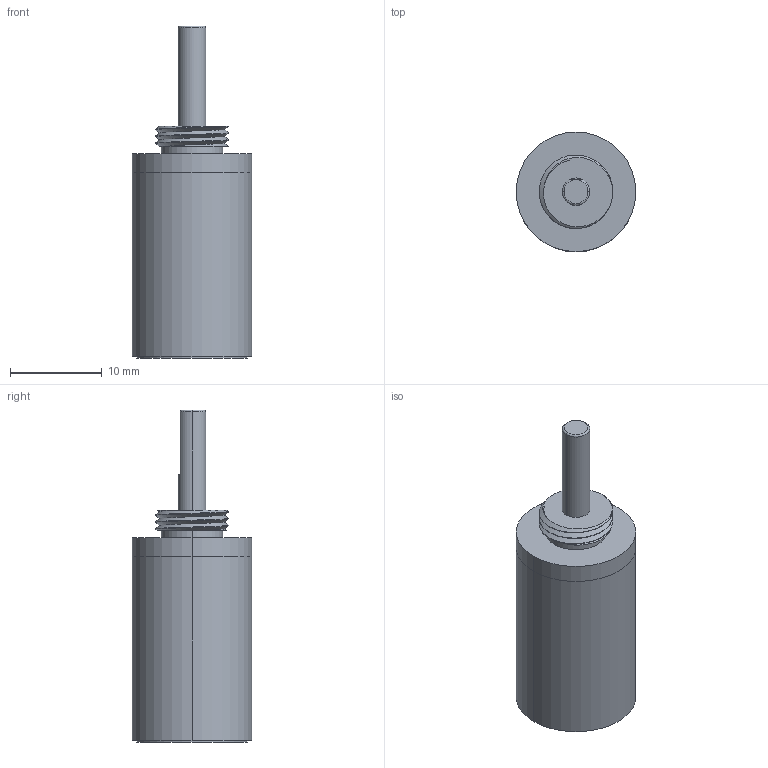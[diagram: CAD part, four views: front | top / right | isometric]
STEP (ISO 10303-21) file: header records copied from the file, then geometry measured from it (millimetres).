
FILE_DESCRIPTION (( 'STEP AP203' ), '1' );
FILE_NAME ('IG-13(II)-4stage.STEP', '2023-03-27T02:31:34', ( '' ), ( '' ), 'SwSTEP 2.0', 'SolidWorks 2019', '' );
FILE_SCHEMA (( 'CONFIG_CONTROL_DESIGN' ));
Length unit declared in the file: millimetre
Products named in the file (1): IG-13(II)-4stage
Bounding box: 13 x 13 x 36.1 mm (x, y, z)
Volume: 3360.5 mm3; surface area: 1798.5 mm2
Topology: 2 solids, 2 shells, 40 faces, 84 edges, 55 vertices
Faces by surface type: cylinder 22, plane 13, torus 3, bspline 2
Entity records: 1645 total; most frequent: CARTESIAN_POINT 724, DIRECTION 184, ORIENTED_EDGE 168, EDGE_CURVE 84, AXIS2_PLACEMENT_3D 80, VERTEX_POINT 55, EDGE_LOOP 47, CIRCLE 41
